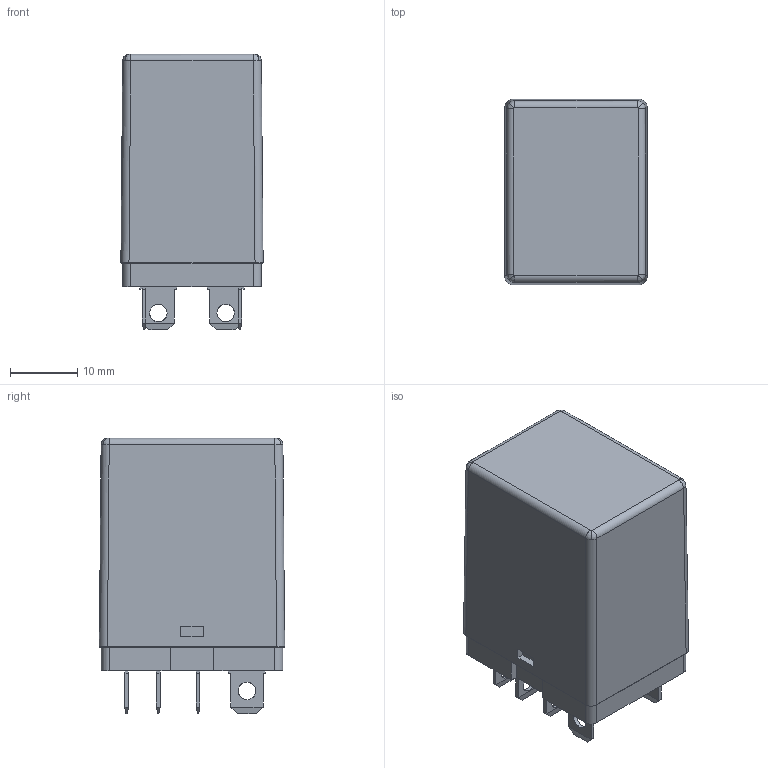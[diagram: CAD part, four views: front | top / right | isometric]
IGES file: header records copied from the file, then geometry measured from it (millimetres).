
Global section: file name: L2; native system: Autodesk Inventor 2020; preprocessor: unknown; organization: Mors Smitt; date: 20210603.155158; units: millimetre
Bounding box: 21.1 x 27.5 x 40.9 mm (x, y, z)
Volume: 19394.5 mm3; surface area: 4993.3 mm2
Topology: 1 solids, 2 shells, 196 faces, 508 edges, 329 vertices
Faces by surface type: bspline 196
